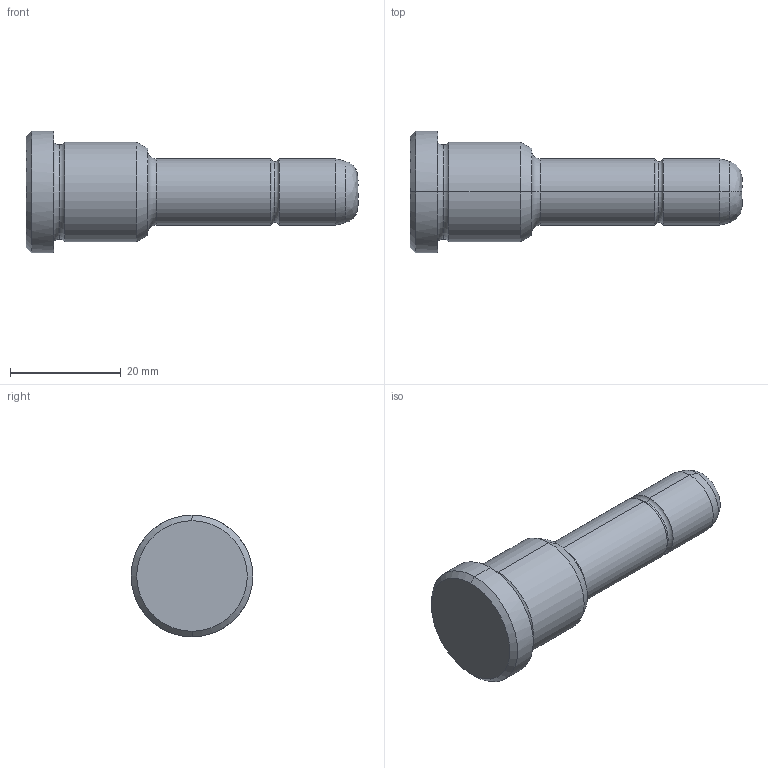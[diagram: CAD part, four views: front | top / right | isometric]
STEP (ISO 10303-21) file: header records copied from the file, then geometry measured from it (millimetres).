
FILE_DESCRIPTION(('CATIA V5 STEP Exchange'),'2;1');
FILE_NAME('C:\Users\Utente\Desktop\IO LAVORO\3D X SITO CF\X SITO\PLASTICA\351\351-12X22X60.stp','2021-08-17T11:48:46+00:00',('none'),('none'),'CATIA Version 5 Release 20 GA (IN-10)','CATIA V5 STEP AP203','none');
FILE_SCHEMA(('CONFIG_CONTROL_DESIGN'));
Length unit declared in the file: millimetre
Products named in the file (1): 351-12X22X60
Bounding box: 60 x 22 x 22 mm (x, y, z)
Volume: 10283.1 mm3; surface area: 3339.6 mm2
Topology: 1 solids, 1 shells, 30 faces, 86 edges, 60 vertices
Faces by surface type: torus 10, cylinder 8, cone 6, plane 4, bspline 2
Entity records: 1128 total; most frequent: CARTESIAN_POINT 343, ORIENTED_EDGE 172, DIRECTION 124, EDGE_CURVE 86, AXIS2_PLACEMENT_3D 83, VERTEX_POINT 60, CIRCLE 54, EDGE_LOOP 32
